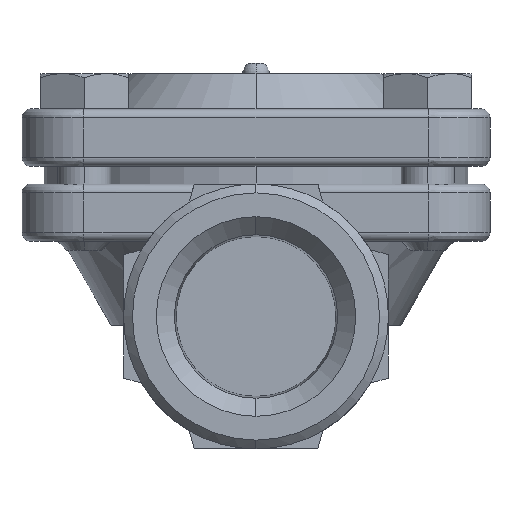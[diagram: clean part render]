
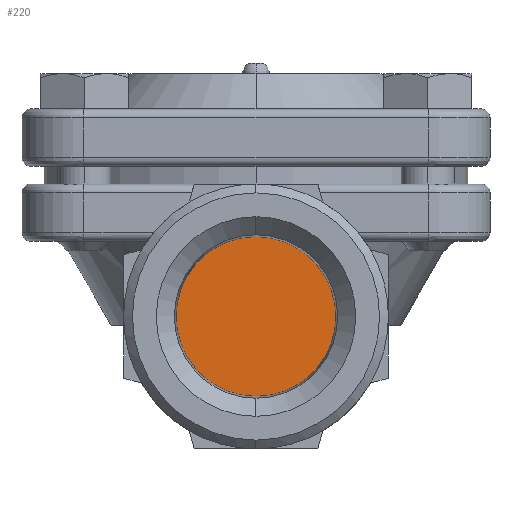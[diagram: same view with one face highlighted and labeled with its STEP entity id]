
A CAD part, left-side view. The second image highlights one B-rep face of the part: STEP entity #220.
In plain terms, the highlighted planar face has unit normal (-1, 0, 0).
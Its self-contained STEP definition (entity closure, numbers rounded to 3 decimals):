
#220=ADVANCED_FACE('',(#2099),#2098,.F.);
#2098=PLANE('',#4092);
#2099=FACE_OUTER_BOUND('',#4093,.T.);
#4089=CARTESIAN_POINT('',(-22.5,-22.863,14.3));
#4090=DIRECTION('',(1.,0.,0.));
#4091=DIRECTION('',(0.,0.,-1.));
#4092=AXIS2_PLACEMENT_3D('',#4089,#4090,#4091);
#4093=EDGE_LOOP('',(#5420,#5421));
#5420=ORIENTED_EDGE('',*,*,#6138,.T.);
#5421=ORIENTED_EDGE('',*,*,#6139,.T.);
#6138=EDGE_CURVE('',#9386,#9387,#9388,.T.);
#6139=EDGE_CURVE('',#9387,#9386,#9394,.T.);
#9386=VERTEX_POINT('',#12046);
#9387=VERTEX_POINT('',#12047);
#9388=CIRCLE('',#12051,11.);
#9394=CIRCLE('',#12055,11.);
#12046=CARTESIAN_POINT('',(-22.5,0.,11.));
#12047=CARTESIAN_POINT('',(-22.5,0.,-11.));
#12048=CARTESIAN_POINT('',(-22.5,0.,0.));
#12049=DIRECTION('',(-1.,0.,0.));
#12050=DIRECTION('',(0.,0.,1.));
#12051=AXIS2_PLACEMENT_3D('',#12048,#12049,#12050);
#12052=CARTESIAN_POINT('',(-22.5,0.,0.));
#12053=DIRECTION('',(-1.,0.,0.));
#12054=DIRECTION('',(0.,0.,1.));
#12055=AXIS2_PLACEMENT_3D('',#12052,#12053,#12054);
